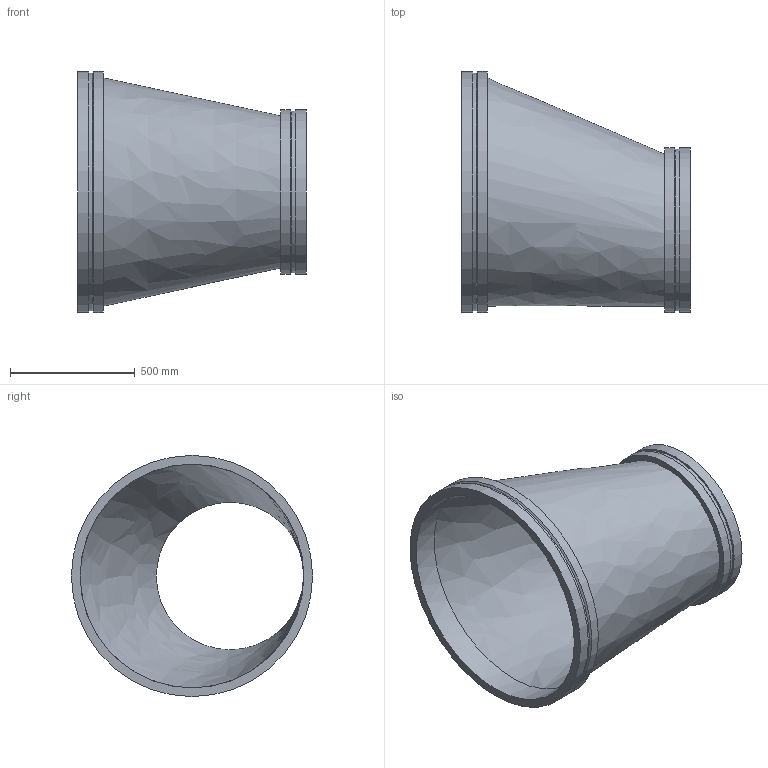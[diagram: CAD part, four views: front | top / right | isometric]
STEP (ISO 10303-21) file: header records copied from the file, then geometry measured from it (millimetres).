
FILE_DESCRIPTION(/* description */ ('VIC REDUCER ECCENTRIC No W51-VR','CAx-IF Rec.Pracs.---Representation and Presentation of Product Manufacturing Information (PMI)---4.0---2014-10-13'),/* implementation_level */ '2;1');
FILE_NAME(/* name */ 'C:\Users\kkamble\AppData\Roaming\Autodesk\ApplicationPlugins\Back Up\Victaulic_Vic-Ring_Reducer Eccentric_No W51 VR (AGR)\Victaulic_Vic-Ring_Reducer Eccentric_No W51 VR (AGR)_36.0x24.0 (900x600).stp',/* time_stamp */ '2020-09-10T11:50:35+05:00',/* author */ ('CONSTRUCTION PIPING SERVICES'),/* organization */ ('Victaulic'),/* preprocessor_version */ 'ST-DEVELOPER v17.2',/* originating_system */ 'Autodesk Inventor 2019',/* authorisation */ '');
FILE_SCHEMA (('AP242_MANAGED_MODEL_BASED_3D_ENGINEERING_MIM_LF { 1 0 10303 442 1 1 4 }'));
Length unit declared in the file: inch
Products named in the file (1): W51 VR-36.0x24.0
Bounding box: 914.4 x 965.2 x 965.2 mm (x, y, z)
Volume: 32748408.6 mm3; surface area: 4816576.7 mm2
Topology: 1 solids, 1 shells, 18 faces, 49 edges, 37 vertices
Faces by surface type: cylinder 8, plane 6, cone 2, bspline 2
Full cylindrical faces by diameter (mm): 590.55 x1, 645.922 x1, 660.4 x2, 895.35 x1, 950.722 x1, 965.2 x2
Entity records: 792 total; most frequent: CARTESIAN_POINT 158, DIRECTION 144, ORIENTED_EDGE 98, AXIS2_PLACEMENT_3D 67, EDGE_CURVE 49, CIRCLE 37, VERTEX_POINT 37, EDGE_LOOP 24
